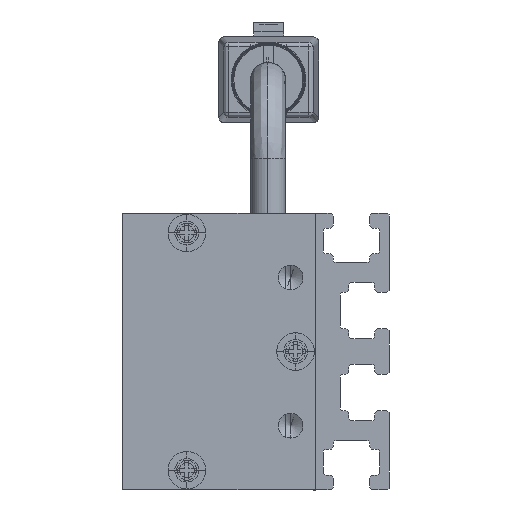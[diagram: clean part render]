
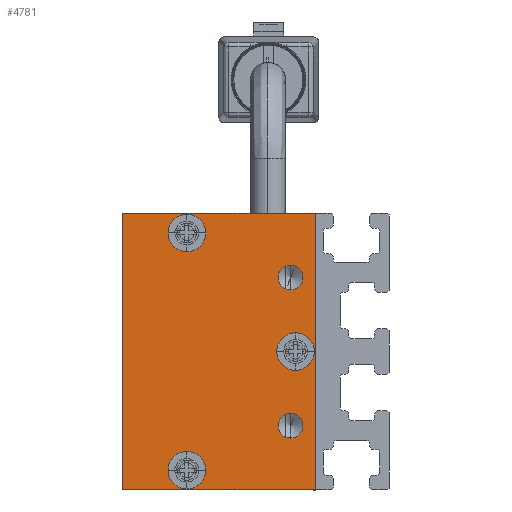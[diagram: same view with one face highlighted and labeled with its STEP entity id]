
A CAD part, left-side view. The second image highlights one B-rep face of the part: STEP entity #4781.
In plain terms, the highlighted planar face has unit normal (-1, 0, 0) as drawn and (0, 0, -1) by its records, which use the part's own axes.
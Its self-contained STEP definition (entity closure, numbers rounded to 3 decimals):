
#224 = ORIENTED_EDGE ( 'NONE', *, *, #7748, .F. ) ;
#315 = EDGE_CURVE ( 'NONE', #13463, #11551, #3789, .T. ) ;
#489 = AXIS2_PLACEMENT_3D ( 'NONE', #12269, #10130, #6870 ) ;
#650 = VERTEX_POINT ( 'NONE', #11900 ) ;
#743 = CIRCLE ( 'NONE', #4418, 1.25 ) ;
#872 = VERTEX_POINT ( 'NONE', #7169 ) ;
#965 = CARTESIAN_POINT ( 'NONE',  ( 10.1, 13., -2.5 ) ) ;
#1071 = CARTESIAN_POINT ( 'NONE',  ( 12., 13., -2.5 ) ) ;
#1131 = ORIENTED_EDGE ( 'NONE', *, *, #315, .F. ) ;
#1402 = EDGE_CURVE ( 'NONE', #872, #9769, #12630, .T. ) ;
#1738 = ORIENTED_EDGE ( 'NONE', *, *, #1402, .F. ) ;
#1925 = FACE_OUTER_BOUND ( 'NONE', #9707, .T. ) ;
#1940 = DIRECTION ( 'NONE',  ( 0., 0., -1. ) ) ;
#2264 = VERTEX_POINT ( 'NONE', #6939 ) ;
#2343 = DIRECTION ( 'NONE',  ( 0., 1., 0. ) ) ;
#2454 = AXIS2_PLACEMENT_3D ( 'NONE', #5876, #2766, #10410 ) ;
#2527 = DIRECTION ( 'NONE',  ( 0., 0., -1. ) ) ;
#2553 = EDGE_CURVE ( 'NONE', #7572, #10090, #9793, .T. ) ;
#2699 = EDGE_CURVE ( 'NONE', #9769, #872, #10013, .T. ) ;
#2766 = DIRECTION ( 'NONE',  ( 0., 0., -1. ) ) ;
#2842 = CARTESIAN_POINT ( 'NONE',  ( 6.25, 2.5, -2.5 ) ) ;
#2843 = ORIENTED_EDGE ( 'NONE', *, *, #7160, .F. ) ;
#2971 = CARTESIAN_POINT ( 'NONE',  ( 8.75, 2.5, -2.5 ) ) ;
#3145 = FACE_BOUND ( 'NONE', #11715, .T. ) ;
#3314 = DIRECTION ( 'NONE',  ( -1., 0., 0. ) ) ;
#3383 = DIRECTION ( 'NONE',  ( 0., 0., -1. ) ) ;
#3443 = AXIS2_PLACEMENT_3D ( 'NONE', #5993, #1940, #6213 ) ;
#3553 = EDGE_CURVE ( 'NONE', #11550, #650, #4823, .T. ) ;
#3699 = CARTESIAN_POINT ( 'NONE',  ( 1.9, 2., -2.5 ) ) ;
#3715 = ORIENTED_EDGE ( 'NONE', *, *, #5092, .F. ) ;
#3731 = CARTESIAN_POINT ( 'NONE',  ( -13.9, 13., -2.5 ) ) ;
#3734 = DIRECTION ( 'NONE',  ( -1., 0., 0. ) ) ;
#3745 = CARTESIAN_POINT ( 'NONE',  ( 0., 2., -2.5 ) ) ;
#3789 = CIRCLE ( 'NONE', #11732, 1.9 ) ;
#3802 = ORIENTED_EDGE ( 'NONE', *, *, #3553, .F. ) ;
#3881 = CARTESIAN_POINT ( 'NONE',  ( 14., 19.5, -2.5 ) ) ;
#4077 = CARTESIAN_POINT ( 'NONE',  ( 0., 0., -2.5 ) ) ;
#4153 = AXIS2_PLACEMENT_3D ( 'NONE', #3745, #13372, #6918 ) ;
#4161 = VECTOR ( 'NONE', #8375, 1000. ) ;
#4330 = VERTEX_POINT ( 'NONE', #7557 ) ;
#4355 = CIRCLE ( 'NONE', #10425, 1.25 ) ;
#4418 = AXIS2_PLACEMENT_3D ( 'NONE', #12500, #2527, #7776 ) ;
#4635 = ORIENTED_EDGE ( 'NONE', *, *, #4716, .F. ) ;
#4702 = DIRECTION ( 'NONE',  ( 0., 0., -1. ) ) ;
#4716 = EDGE_CURVE ( 'NONE', #10436, #13156, #743, .T. ) ;
#4781 = ADVANCED_FACE ( 'NONE', ( #7241, #12797, #3145, #4984, #6040, #1925 ), #5071, .T. ) ;
#4795 = CARTESIAN_POINT ( 'NONE',  ( 12., 13., -2.5 ) ) ;
#4823 = CIRCLE ( 'NONE', #489, 1.9 ) ;
#4984 = FACE_BOUND ( 'NONE', #5180, .T. ) ;
#5071 = PLANE ( 'NONE',  #11472 ) ;
#5092 = EDGE_CURVE ( 'NONE', #13156, #10436, #9676, .T. ) ;
#5180 = EDGE_LOOP ( 'NONE', ( #4635, #3715 ) ) ;
#5213 = CARTESIAN_POINT ( 'NONE',  ( 14., 0., -2.5 ) ) ;
#5425 = DIRECTION ( 'NONE',  ( 0., 0., -1. ) ) ;
#5566 = ORIENTED_EDGE ( 'NONE', *, *, #13600, .F. ) ;
#5750 = VECTOR ( 'NONE', #7240, 1000. ) ;
#5876 = CARTESIAN_POINT ( 'NONE',  ( -12., 13., -2.5 ) ) ;
#5964 = DIRECTION ( 'NONE',  ( -1., 0., 0. ) ) ;
#5993 = CARTESIAN_POINT ( 'NONE',  ( -12., 13., -2.5 ) ) ;
#6040 = FACE_BOUND ( 'NONE', #6897, .T. ) ;
#6186 = VERTEX_POINT ( 'NONE', #11035 ) ;
#6213 = DIRECTION ( 'NONE',  ( -1., 0., 0. ) ) ;
#6247 = DIRECTION ( 'NONE',  ( 0., 0., -1. ) ) ;
#6576 = ORIENTED_EDGE ( 'NONE', *, *, #12854, .F. ) ;
#6870 = DIRECTION ( 'NONE',  ( -1., 0., 0. ) ) ;
#6897 = EDGE_LOOP ( 'NONE', ( #9586, #5566 ) ) ;
#6918 = DIRECTION ( 'NONE',  ( -1., 0., 0. ) ) ;
#6939 = CARTESIAN_POINT ( 'NONE',  ( -14., 0., -2.5 ) ) ;
#6992 = EDGE_LOOP ( 'NONE', ( #13099, #1738 ) ) ;
#7160 = EDGE_CURVE ( 'NONE', #10090, #10573, #7177, .T. ) ;
#7169 = CARTESIAN_POINT ( 'NONE',  ( -10.1, 13., -2.5 ) ) ;
#7177 = LINE ( 'NONE', #7247, #13414 ) ;
#7178 = EDGE_CURVE ( 'NONE', #10573, #2264, #12724, .T. ) ;
#7240 = DIRECTION ( 'NONE',  ( 1., 0., 0. ) ) ;
#7241 = FACE_BOUND ( 'NONE', #8230, .T. ) ;
#7247 = CARTESIAN_POINT ( 'NONE',  ( -14., 19.5, -2.5 ) ) ;
#7525 = CARTESIAN_POINT ( 'NONE',  ( -14., 19.5, -2.5 ) ) ;
#7557 = CARTESIAN_POINT ( 'NONE',  ( -8.75, 2.5, -2.5 ) ) ;
#7572 = VERTEX_POINT ( 'NONE', #13237 ) ;
#7748 = EDGE_CURVE ( 'NONE', #11551, #13463, #11884, .T. ) ;
#7776 = DIRECTION ( 'NONE',  ( -1., 0., 0. ) ) ;
#7794 = CARTESIAN_POINT ( 'NONE',  ( 14., 19.5, -2.5 ) ) ;
#8230 = EDGE_LOOP ( 'NONE', ( #1131, #224 ) ) ;
#8375 = DIRECTION ( 'NONE',  ( 0., -1., 0. ) ) ;
#8458 = DIRECTION ( 'NONE',  ( -1., 0., 0. ) ) ;
#8519 = DIRECTION ( 'NONE',  ( 0., 0., -1. ) ) ;
#9581 = CIRCLE ( 'NONE', #12514, 1.25 ) ;
#9582 = CARTESIAN_POINT ( 'NONE',  ( -7.5, 2.5, -2.5 ) ) ;
#9586 = ORIENTED_EDGE ( 'NONE', *, *, #11816, .F. ) ;
#9610 = DIRECTION ( 'NONE',  ( -1., 0., 0. ) ) ;
#9676 = CIRCLE ( 'NONE', #13741, 1.25 ) ;
#9707 = EDGE_LOOP ( 'NONE', ( #13321, #6576, #11347, #2843 ) ) ;
#9769 = VERTEX_POINT ( 'NONE', #3731 ) ;
#9793 = LINE ( 'NONE', #7794, #12703 ) ;
#9895 = EDGE_CURVE ( 'NONE', #650, #11550, #13878, .T. ) ;
#10013 = CIRCLE ( 'NONE', #3443, 1.9 ) ;
#10090 = VERTEX_POINT ( 'NONE', #3881 ) ;
#10130 = DIRECTION ( 'NONE',  ( 0., 0., -1. ) ) ;
#10410 = DIRECTION ( 'NONE',  ( -1., 0., 0. ) ) ;
#10425 = AXIS2_PLACEMENT_3D ( 'NONE', #12119, #3383, #3314 ) ;
#10436 = VERTEX_POINT ( 'NONE', #2842 ) ;
#10566 = DIRECTION ( 'NONE',  ( -1., 0., 0. ) ) ;
#10573 = VERTEX_POINT ( 'NONE', #7525 ) ;
#11035 = CARTESIAN_POINT ( 'NONE',  ( -6.25, 2.5, -2.5 ) ) ;
#11188 = AXIS2_PLACEMENT_3D ( 'NONE', #1071, #5425, #9610 ) ;
#11247 = DIRECTION ( 'NONE',  ( 0., 0., -1. ) ) ;
#11347 = ORIENTED_EDGE ( 'NONE', *, *, #7178, .F. ) ;
#11349 = CARTESIAN_POINT ( 'NONE',  ( 7.5, 2.5, -2.5 ) ) ;
#11390 = ORIENTED_EDGE ( 'NONE', *, *, #9895, .F. ) ;
#11472 = AXIS2_PLACEMENT_3D ( 'NONE', #4077, #8519, #8458 ) ;
#11550 = VERTEX_POINT ( 'NONE', #3699 ) ;
#11551 = VERTEX_POINT ( 'NONE', #13402 ) ;
#11590 = DIRECTION ( 'NONE',  ( -1., 0., 0. ) ) ;
#11670 = CARTESIAN_POINT ( 'NONE',  ( -14., 0., -2.5 ) ) ;
#11715 = EDGE_LOOP ( 'NONE', ( #11390, #3802 ) ) ;
#11732 = AXIS2_PLACEMENT_3D ( 'NONE', #4795, #11247, #3734 ) ;
#11816 = EDGE_CURVE ( 'NONE', #4330, #6186, #9581, .T. ) ;
#11884 = CIRCLE ( 'NONE', #11188, 1.9 ) ;
#11900 = CARTESIAN_POINT ( 'NONE',  ( -1.9, 2., -2.5 ) ) ;
#12119 = CARTESIAN_POINT ( 'NONE',  ( -7.5, 2.5, -2.5 ) ) ;
#12269 = CARTESIAN_POINT ( 'NONE',  ( 0., 2., -2.5 ) ) ;
#12500 = CARTESIAN_POINT ( 'NONE',  ( 7.5, 2.5, -2.5 ) ) ;
#12514 = AXIS2_PLACEMENT_3D ( 'NONE', #9582, #6247, #10566 ) ;
#12630 = CIRCLE ( 'NONE', #2454, 1.9 ) ;
#12703 = VECTOR ( 'NONE', #2343, 1000. ) ;
#12724 = LINE ( 'NONE', #11670, #4161 ) ;
#12797 = FACE_BOUND ( 'NONE', #6992, .T. ) ;
#12854 = EDGE_CURVE ( 'NONE', #2264, #7572, #13777, .T. ) ;
#13099 = ORIENTED_EDGE ( 'NONE', *, *, #2699, .F. ) ;
#13156 = VERTEX_POINT ( 'NONE', #2971 ) ;
#13237 = CARTESIAN_POINT ( 'NONE',  ( 14., 0., -2.5 ) ) ;
#13321 = ORIENTED_EDGE ( 'NONE', *, *, #2553, .F. ) ;
#13372 = DIRECTION ( 'NONE',  ( 0., 0., -1. ) ) ;
#13402 = CARTESIAN_POINT ( 'NONE',  ( 13.9, 13., -2.5 ) ) ;
#13414 = VECTOR ( 'NONE', #11590, 1000. ) ;
#13463 = VERTEX_POINT ( 'NONE', #965 ) ;
#13600 = EDGE_CURVE ( 'NONE', #6186, #4330, #4355, .T. ) ;
#13741 = AXIS2_PLACEMENT_3D ( 'NONE', #11349, #4702, #5964 ) ;
#13777 = LINE ( 'NONE', #5213, #5750 ) ;
#13878 = CIRCLE ( 'NONE', #4153, 1.9 ) ;
